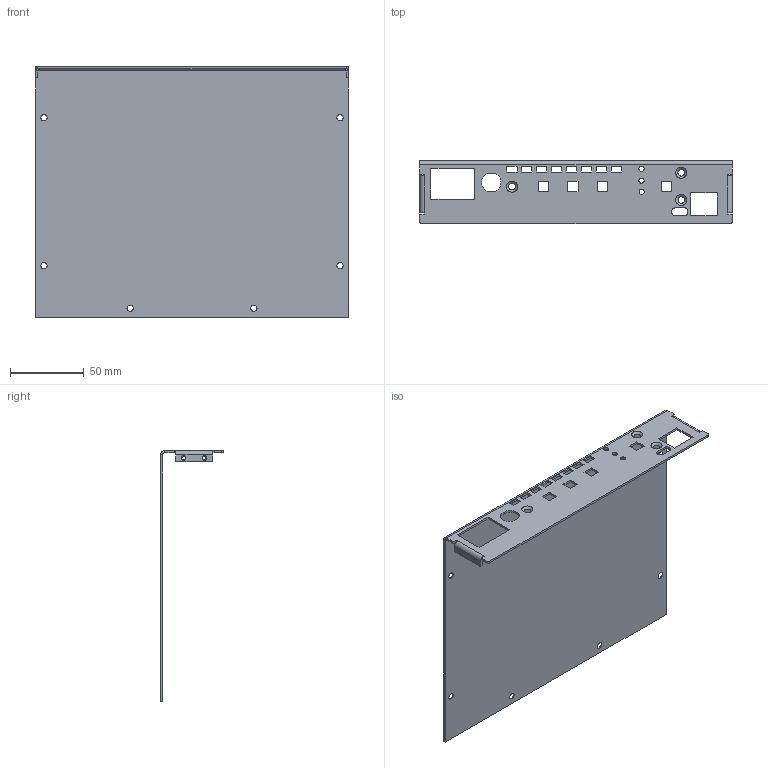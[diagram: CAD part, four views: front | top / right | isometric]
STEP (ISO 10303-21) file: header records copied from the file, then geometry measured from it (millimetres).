
FILE_DESCRIPTION(/* description */ (''),/* implementation_level */ '2;1');
FILE_NAME(/* name */ 'ENERGIS - Top Sheetmetal Enclosure.step',/* time_stamp */ '2026-01-27T21:27:55+01:00',/* author */ (''),/* organization */ (''),/* preprocessor_version */ 'ST-DEVELOPER v20.1',/* originating_system */ 'Autodesk Translation Framework v14.21.0.0',/* authorisation */ '');
FILE_SCHEMA (('AUTOMOTIVE_DESIGN { 1 0 10303 214 3 1 1 }'));
Length unit declared in the file: millimetre
Products named in the file (2): ENERGIS- Sheetmetal Enclosure; Top2
Assembly tree (1 placements, depth 2):
  ENERGIS- Sheetmetal Enclosure
    Top2
Bounding box: 211.21 x 42.7 x 169.61 mm (x, y, z)
Volume: 64186.3 mm3; surface area: 88128.9 mm2
Topology: 1 solids, 1 shells, 164 faces, 462 edges, 300 vertices
Faces by surface type: plane 98, cylinder 49, bspline 17
Full cylindrical faces by diameter (mm): 2.529 x8, 3.5 x3
Entity records: 9804 total; most frequent: CARTESIAN_POINT 5532, ORIENTED_EDGE 924, DIRECTION 723, EDGE_CURVE 462, LINE 305, VECTOR 305, VERTEX_POINT 300, EDGE_LOOP 228
